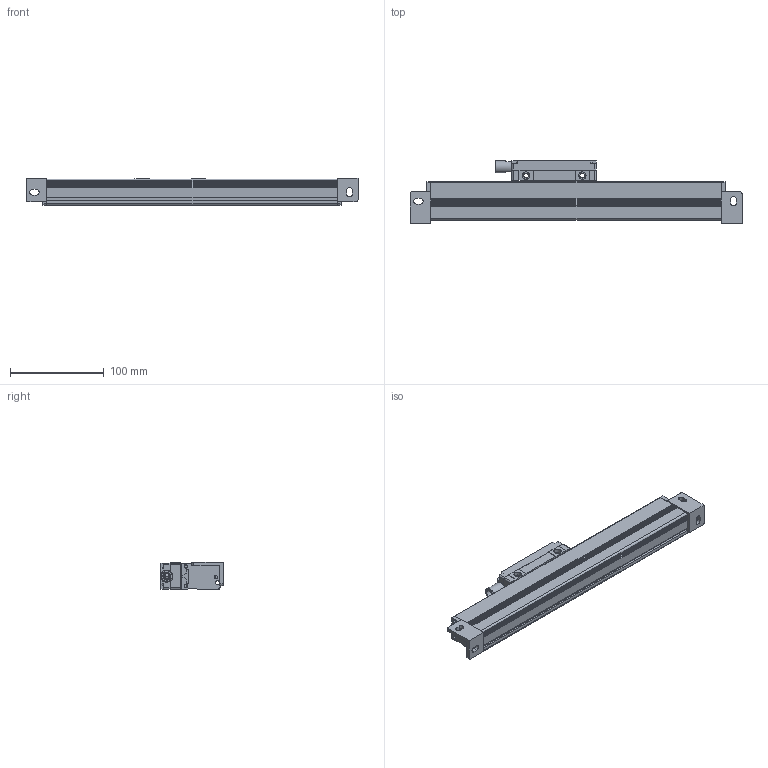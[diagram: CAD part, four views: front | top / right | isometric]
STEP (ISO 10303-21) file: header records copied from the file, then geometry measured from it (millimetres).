
FILE_DESCRIPTION (( 'STEP AP214' ), '1' );
FILE_NAME ('JCXE-L-0200.STEP', '2021-12-16T03:03:38', ( '微软用户' ), ( '微软中国' ), 'SwSTEP 2.0', 'SolidWorks 2010', '' );
FILE_SCHEMA (( 'AUTOMOTIVE_DESIGN' ));
Length unit declared in the file: millimetre
Products named in the file (7): MSBR-5_1-1; PRT0002; MSBR-4_1-1; MSBR-3_1-1; MSBR-2_1-1; 嫖掑喜旯L1200; JCXE-L-0200
Assembly tree (6 placements, depth 2):
  JCXE-L-0200
    MSBR-3_1-1
    MSBR-4_1-1
    MSBR-5_1-1
    MSBR-2_1-1
    PRT0002
    嫖掑喜旯L1200
Bounding box: 354 x 66.8 x 29.5 mm (x, y, z)
Volume: 186666.8 mm3; surface area: 129905.7 mm2
Topology: 6 solids, 6 shells, 547 faces, 1493 edges, 984 vertices
Faces by surface type: plane 331, cylinder 161, cone 27, bspline 25, sphere 3
Entity records: 18988 total; most frequent: CARTESIAN_POINT 4706, ORIENTED_EDGE 2978, DIRECTION 2838, EDGE_CURVE 1489, LINE 1018, VECTOR 1018, VERTEX_POINT 982, AXIS2_PLACEMENT_3D 910
